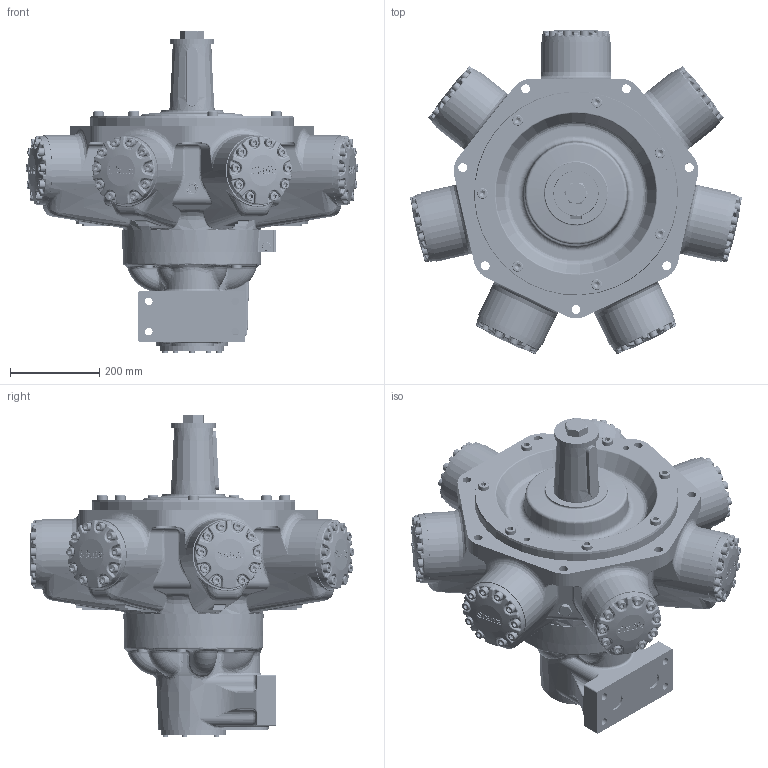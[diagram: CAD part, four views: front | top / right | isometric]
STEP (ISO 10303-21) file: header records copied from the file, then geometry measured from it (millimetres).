
FILE_DESCRIPTION(/* description */ (''),/* implementation_level */ '2;1');
FILE_NAME(/* name */ 'HMC325_T_SM4_C.stp',/* time_stamp */ '2025-06-13T11:08:04+01:00',/* author */ ('ccallanga'),/* organization */ (''),/* preprocessor_version */ 'ST-DEVELOPER v20',/* originating_system */ 'Autodesk Inventor 2024',/* authorisation */ '');
FILE_SCHEMA (('AUTOMOTIVE_DESIGN { 1 0 10303 214 3 1 1 }'));
Products named in the file (1): 017753 HMC325 Web Assembly_Simplify_1
Bounding box: 744.35 x 728.18 x 723.43 mm (x, y, z)
Volume: 76467376.2 mm3; surface area: 1779745.2 mm2
Topology: 1 solids, 1 shells, 6068 faces, 14649 edges, 8617 vertices
Faces by surface type: bspline 2360, plane 1630, cylinder 1253, torus 502, sphere 162, cone 161
Full cylindrical faces by diameter (mm): 4 x1, 4.134 x4, 5 x4, 5.5 x4, 6.05 x2, 11.913 x5, 12.7 x5, 14.351 x2, 16.51 x1, 17 x4, 19 x1, 19.05 x70, 20 x7, 20.637 x70, 23.825 x14, 25 x5, 25.4 x14, 26.92 x2, 38 x2, 38.1 x3, 46 x1, 100 x1, 101.575 x1, 106.68 x1, 139.7 x1, 146.05 x1, 311 x1, 311.15 x1, 457.11 x1
Entity records: 273764 total; most frequent: CARTESIAN_POINT 144254, ORIENTED_EDGE 28746, DIRECTION 20468, EDGE_CURVE 14373, VERTEX_POINT 8617, AXIS2_PLACEMENT_3D 7989, EDGE_LOOP 6402, STYLED_ITEM 6069
